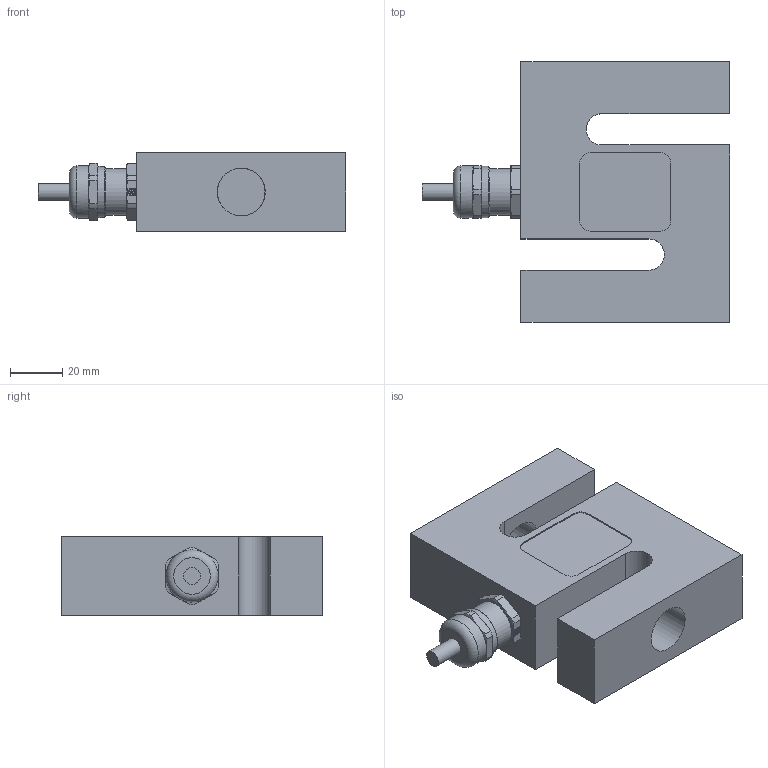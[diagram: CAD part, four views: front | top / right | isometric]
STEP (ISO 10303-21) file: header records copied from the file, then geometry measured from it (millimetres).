
FILE_DESCRIPTION(/* description */ ('Alibre Inc.'),/* implementation_level */ '2;1');
FILE_NAME(/* name */ 'export0',/* time_stamp */ '2017-01-09T14:22:08+01:00',/* author */ (''),/* organization */ (''),/* preprocessor_version */ 'ST-DEVELOPER v14',/* originating_system */ 'Alibre',/* authorisation */ '');
FILE_SCHEMA (('CONFIG_CONTROL_DESIGN'));
Length unit declared in the file: centimetre
Products named in the file (7): ID_1; ID_2; _SKINTOP MS-M 16x1,5      Art. Nr. 53112010(F=4.5); _SKINDICHT BL-M 12x1,5 + O-Ring      Art. Nr. 52103105
Bounding box: 117.8 x 100 x 30 mm (x, y, z)
Volume: 197155.5 mm3; surface area: 41953.5 mm2
Topology: 6 solids, 8 shells, 194 faces, 478 edges, 311 vertices
Faces by surface type: plane 97, cylinder 68, cone 22, torus 5, sphere 2
Full cylindrical faces by diameter (mm): 4.5 x1, 6.5 x3, 8.128 x1, 10.376 x1, 12 x1, 14.16 x2, 14.376 x1, 15 x1, 16 x2, 18 x1, 18.376 x2, 19.6 x1, 19.98 x1
Entity records: 6058 total; most frequent: CARTESIAN_POINT 1220, ORIENTED_EDGE 826, DIRECTION 826, EDGE_CURVE 413, AXIS2_PLACEMENT_3D 357, VERTEX_POINT 289, FACE_BOUND 240, EDGE_LOOP 238
